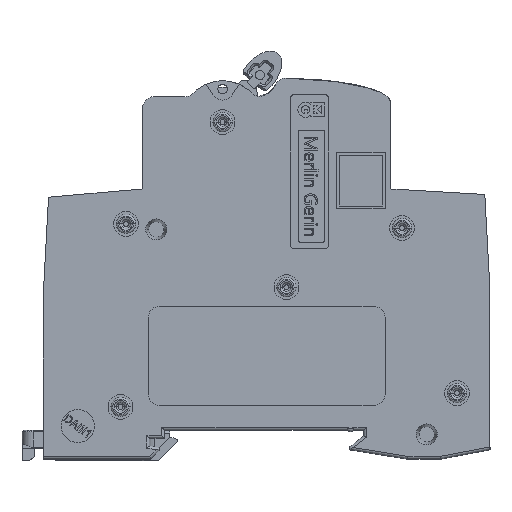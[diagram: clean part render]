
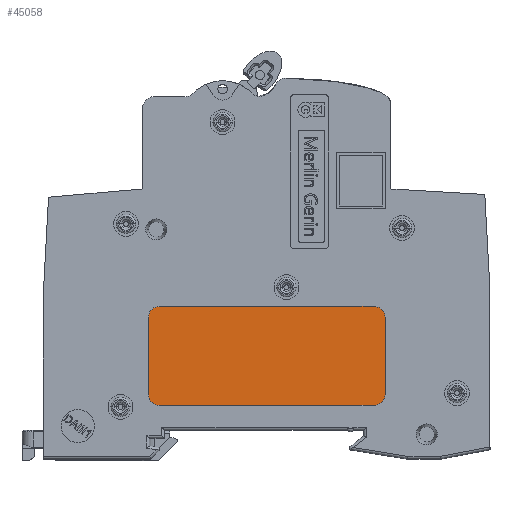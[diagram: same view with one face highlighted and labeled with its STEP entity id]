
A CAD part, top view. The second image highlights one B-rep face of the part: STEP entity #45058.
In plain terms, the highlighted planar face has unit normal (0, 0, 1).
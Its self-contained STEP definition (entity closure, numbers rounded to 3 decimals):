
#1254 = LINE ( 'NONE', #26562, #70067 ) ;
#1589 = CARTESIAN_POINT ( 'NONE',  ( 21.5, 1.2, 8.73 ) ) ;
#2388 = DIRECTION ( 'NONE',  ( 0., 0., 1. ) ) ;
#5421 = EDGE_CURVE ( 'NONE', #10541, #48622, #1254, .T. ) ;
#5767 = DIRECTION ( 'NONE',  ( -1., 0., 0. ) ) ;
#6220 = VECTOR ( 'NONE', #5767, 1000. ) ;
#8200 = CARTESIAN_POINT ( 'NONE',  ( -19.5, 1.2, 8.73 ) ) ;
#9246 = AXIS2_PLACEMENT_3D ( 'NONE', #8200, #2388, #59220 ) ;
#9756 = DIRECTION ( 'NONE',  ( 0., 0., 1. ) ) ;
#10541 = VERTEX_POINT ( 'NONE', #38834 ) ;
#14117 = DIRECTION ( 'NONE',  ( 1., 0., 0. ) ) ;
#14169 = LINE ( 'NONE', #57730, #27022 ) ;
#15628 = VERTEX_POINT ( 'NONE', #56024 ) ;
#16121 = CARTESIAN_POINT ( 'NONE',  ( 0., 0., 8.73 ) ) ;
#16754 = CARTESIAN_POINT ( 'NONE',  ( -21.5, 1.2, 8.73 ) ) ;
#17057 = ORIENTED_EDGE ( 'NONE', *, *, #54036, .T. ) ;
#17195 = EDGE_CURVE ( 'NONE', #66094, #10541, #76529, .T. ) ;
#17766 = EDGE_CURVE ( 'NONE', #15628, #58811, #62630, .T. ) ;
#22530 = DIRECTION ( 'NONE',  ( 0., 1., 0. ) ) ;
#22730 = PLANE ( 'NONE',  #77063 ) ;
#23147 = FACE_OUTER_BOUND ( 'NONE', #34722, .T. ) ;
#24051 = CARTESIAN_POINT ( 'NONE',  ( 21.5, 3.2, 8.73 ) ) ;
#25574 = CARTESIAN_POINT ( 'NONE',  ( -19.5, -12.8, 8.73 ) ) ;
#26510 = EDGE_CURVE ( 'NONE', #43150, #15628, #75220, .T. ) ;
#26562 = CARTESIAN_POINT ( 'NONE',  ( 21.5, -14.8, 8.73 ) ) ;
#27022 = VECTOR ( 'NONE', #51508, 1000. ) ;
#32332 = ORIENTED_EDGE ( 'NONE', *, *, #48292, .T. ) ;
#32409 = DIRECTION ( 'NONE',  ( 1., 0., 0. ) ) ;
#33127 = VERTEX_POINT ( 'NONE', #16754 ) ;
#34722 = EDGE_LOOP ( 'NONE', ( #71080, #48975, #81495, #39039, #32332, #35703, #52503, #17057 ) ) ;
#35703 = ORIENTED_EDGE ( 'NONE', *, *, #17195, .T. ) ;
#38090 = CARTESIAN_POINT ( 'NONE',  ( 19.5, -14.8, 8.73 ) ) ;
#38834 = CARTESIAN_POINT ( 'NONE',  ( -19.5, -14.8, 8.73 ) ) ;
#39039 = ORIENTED_EDGE ( 'NONE', *, *, #56674, .T. ) ;
#39353 = CIRCLE ( 'NONE', #56628, 2. ) ;
#42481 = VECTOR ( 'NONE', #22530, 1000. ) ;
#42796 = CARTESIAN_POINT ( 'NONE',  ( 21.5, -14.8, 8.73 ) ) ;
#43150 = VERTEX_POINT ( 'NONE', #1589 ) ;
#45058 = ADVANCED_FACE ( 'NONE', ( #23147 ), #22730, .T. ) ;
#48292 = EDGE_CURVE ( 'NONE', #33127, #66094, #14169, .T. ) ;
#48427 = DIRECTION ( 'NONE',  ( 0., 0., 1. ) ) ;
#48622 = VERTEX_POINT ( 'NONE', #38090 ) ;
#48975 = ORIENTED_EDGE ( 'NONE', *, *, #26510, .T. ) ;
#49425 = DIRECTION ( 'NONE',  ( 1., 0., 0. ) ) ;
#51099 = CARTESIAN_POINT ( 'NONE',  ( 19.5, -12.8, 8.73 ) ) ;
#51508 = DIRECTION ( 'NONE',  ( 0., -1., 0. ) ) ;
#52503 = ORIENTED_EDGE ( 'NONE', *, *, #5421, .T. ) ;
#52665 = AXIS2_PLACEMENT_3D ( 'NONE', #61497, #74389, #49425 ) ;
#54036 = EDGE_CURVE ( 'NONE', #48622, #71793, #39353, .T. ) ;
#56024 = CARTESIAN_POINT ( 'NONE',  ( 19.5, 3.2, 8.73 ) ) ;
#56628 = AXIS2_PLACEMENT_3D ( 'NONE', #51099, #63962, #32409 ) ;
#56674 = EDGE_CURVE ( 'NONE', #58811, #33127, #70199, .T. ) ;
#57730 = CARTESIAN_POINT ( 'NONE',  ( -21.5, -14.8, 8.73 ) ) ;
#58811 = VERTEX_POINT ( 'NONE', #79984 ) ;
#59220 = DIRECTION ( 'NONE',  ( 1., 0., 0. ) ) ;
#60475 = EDGE_CURVE ( 'NONE', #71793, #43150, #80634, .T. ) ;
#61497 = CARTESIAN_POINT ( 'NONE',  ( 19.5, 1.2, 8.73 ) ) ;
#62630 = LINE ( 'NONE', #24051, #6220 ) ;
#63501 = CARTESIAN_POINT ( 'NONE',  ( 21.5, -12.8, 8.73 ) ) ;
#63962 = DIRECTION ( 'NONE',  ( 0., 0., 1. ) ) ;
#64951 = DIRECTION ( 'NONE',  ( 1., 0., 0. ) ) ;
#66094 = VERTEX_POINT ( 'NONE', #69296 ) ;
#67516 = DIRECTION ( 'NONE',  ( 1., 0., 0. ) ) ;
#69296 = CARTESIAN_POINT ( 'NONE',  ( -21.5, -12.8, 8.73 ) ) ;
#70067 = VECTOR ( 'NONE', #14117, 1000. ) ;
#70199 = CIRCLE ( 'NONE', #9246, 2. ) ;
#71080 = ORIENTED_EDGE ( 'NONE', *, *, #60475, .T. ) ;
#71793 = VERTEX_POINT ( 'NONE', #63501 ) ;
#73857 = AXIS2_PLACEMENT_3D ( 'NONE', #25574, #9756, #64951 ) ;
#74389 = DIRECTION ( 'NONE',  ( 0., 0., 1. ) ) ;
#75220 = CIRCLE ( 'NONE', #52665, 2. ) ;
#76529 = CIRCLE ( 'NONE', #73857, 2. ) ;
#77063 = AXIS2_PLACEMENT_3D ( 'NONE', #16121, #48427, #67516 ) ;
#79984 = CARTESIAN_POINT ( 'NONE',  ( -19.5, 3.2, 8.73 ) ) ;
#80634 = LINE ( 'NONE', #42796, #42481 ) ;
#81495 = ORIENTED_EDGE ( 'NONE', *, *, #17766, .T. ) ;
